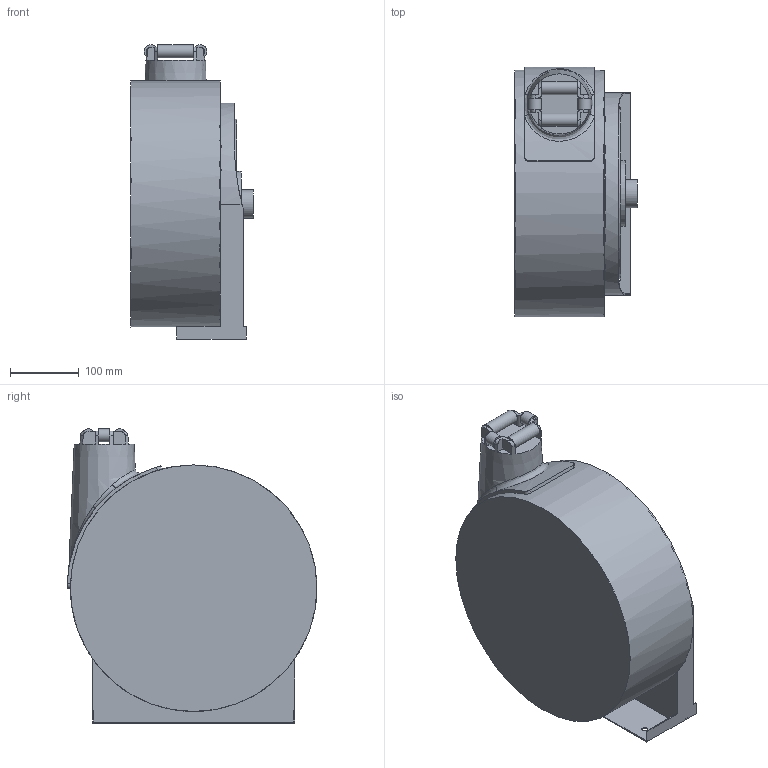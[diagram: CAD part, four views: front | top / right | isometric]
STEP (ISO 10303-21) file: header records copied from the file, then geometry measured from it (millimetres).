
FILE_DESCRIPTION( ( 'Unknown' ), '1' );
FILE_NAME( 'J:/NPD/RE 12893 3D WEB MODELS/5000 SERIES/5000 EXP TW.stp', 'Unknown', ( 'Unknown' ), ( 'Unknown' ), 'PSStep 10.1', 'Unknown', ' ' );
FILE_SCHEMA( ( 'AUTOMOTIVE_DESIGN { 1 0 10303 214 1 1 1 1 }' ) );
Length unit declared in the file: millimetre
Products named in the file (1): 1
Bounding box: 177.94 x 363.55 x 428.17 mm (x, y, z)
Volume: 4722610.1 mm3; surface area: 1305912.4 mm2
Topology: 1 solids, 3 shells, 174 faces, 441 edges, 277 vertices
Faces by surface type: plane 116, cylinder 37, torus 12, cone 5, bspline 4
Full cylindrical faces by diameter (mm): 8.712 x4, 11.862 x1, 15.281 x2, 15.875 x1, 19.05 x4, 25.4 x1, 41.275 x1, 44.45 x1, 85.725 x1, 95.25 x1, 168.148 x1, 177.8 x1, 180.848 x1, 247.65 x1, 355.737 x1, 358.775 x1
Entity records: 9494 total; most frequent: CARTESIAN_POINT 4087, DIRECTION 816, ORIENTED_EDGE 798, EDGE_CURVE 399, AXIS2_PLACEMENT_3D 309, VERTEX_POINT 266, EDGE_LOOP 231, FACE_OUTER_BOUND 201
